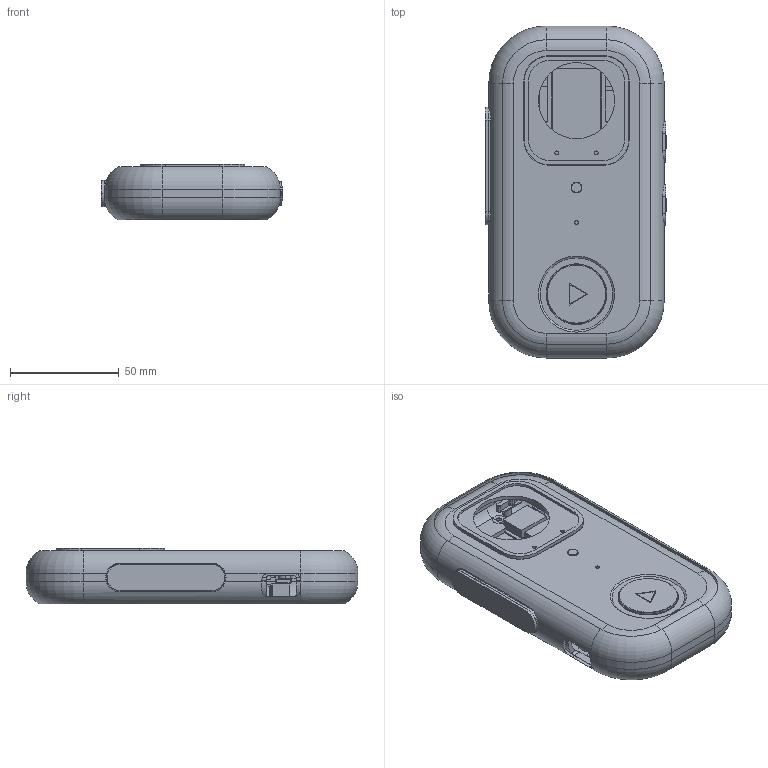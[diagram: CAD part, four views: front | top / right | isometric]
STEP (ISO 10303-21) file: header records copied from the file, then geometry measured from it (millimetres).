
FILE_DESCRIPTION(/* description */ (''),/* implementation_level */ '2;1');
FILE_NAME(/* name */ 'Walkie_One_28_1_R3_6_PRINT_PARTS_ONLY.step',/* time_stamp */ '2026-09-15T15:38:13-07:00',/* author */ (''),/* organization */ (''),/* preprocessor_version */ 'ST-DEVELOPER v20.1',/* originating_system */ 'Autodesk Translation Framework v15.8.0.0',/* authorisation */ '');
FILE_SCHEMA (('AUTOMOTIVE_DESIGN { 1 0 10303 214 3 1 1 }'));
Products named in the file (29): 2026-09-15-14-07-18-350; 2026-09-15-14-09-39-419; 2026-09-15-14-09-41-943; 2026-09-15-14-09-44-607; 2026-09-15-14-09-47-211; 2026-09-15-14-09-50-113; 2026-09-15-15-14-47-004; 2026-09-15-15-14-48-512; 2026-09-15-15-14-49-986; 2026-09-15-15-14-51-454; 2026-09-15-15-14-52-894; 2026-09-15-15-14-54-404; 2026-09-15-15-14-55-869; 2026-09-15-15-14-57-410; 2026-09-15-15-14-58-963; 2026-09-15-15-15-00-469; 2026-09-15-15-15-01-966; 2026-09-15-15-15-03-467; 2026-09-15-15-15-04-938; 2026-09-15-15-15-06-376; 2026-09-15-15-15-07-839; 2026-09-15-15-15-09-378; 2026-09-15-15-15-10-895; 2026-09-15-15-15-12-416; 2026-09-15-15-15-13-912; 2026-09-15-15-15-15-387; 2026-09-15-15-15-19-312; 2026-09-15-15-15-22-717; 2026-09-15-15-38-11-872
Assembly tree (28 placements, depth 2):
  2026-09-15-14-07-18-350
    2026-09-15-14-09-39-419
    2026-09-15-14-09-41-943
    2026-09-15-14-09-44-607
    2026-09-15-14-09-47-211
    2026-09-15-14-09-50-113
    2026-09-15-15-14-47-004
    2026-09-15-15-14-48-512
    2026-09-15-15-14-49-986
    2026-09-15-15-14-51-454
    2026-09-15-15-14-52-894
    2026-09-15-15-14-54-404
    2026-09-15-15-14-55-869
    2026-09-15-15-14-57-410
    2026-09-15-15-14-58-963
    2026-09-15-15-15-00-469
    2026-09-15-15-15-01-966
    2026-09-15-15-15-03-467
    2026-09-15-15-15-04-938
    2026-09-15-15-15-06-376
    2026-09-15-15-15-07-839
    2026-09-15-15-15-09-378
    2026-09-15-15-15-10-895
    2026-09-15-15-15-12-416
    2026-09-15-15-15-13-912
    2026-09-15-15-15-15-387
    2026-09-15-15-15-19-312
    2026-09-15-15-15-22-717
    2026-09-15-15-38-11-872
Bounding box: 83.35 x 152.7 x 25.74 mm (x, y, z)
Volume: 94974.3 mm3; surface area: 108282.4 mm2
Topology: 28 solids, 28 shells, 3368 faces, 9588 edges, 6333 vertices
Faces by surface type: plane 2247, cylinder 918, torus 112, bspline 51, cone 39, sphere 1
Full cylindrical faces by diameter (mm): 1.65 x3, 1.7 x20, 1.8 x9, 1.85 x1, 2.1 x6, 2.17 x1, 2.2 x10, 2.3 x12, 2.4 x4, 2.6 x2, 2.9 x8, 3 x4, 3.92 x2, 4.2 x6, 4.4 x4, 4.6 x4, 4.7 x1, 4.9 x1, 5.4 x1, 5.7 x1, 6 x1, 6.8 x2, 26.8 x1, 27 x1, 27.3 x1, 27.9 x1, 35 x1
Entity records: 131681 total; most frequent: CARTESIAN_POINT 41420, ORIENTED_EDGE 19174, DIRECTION 18449, EDGE_CURVE 9587, VERTEX_POINT 6333, LINE 6307, VECTOR 6307, AXIS2_PLACEMENT_3D 6071
